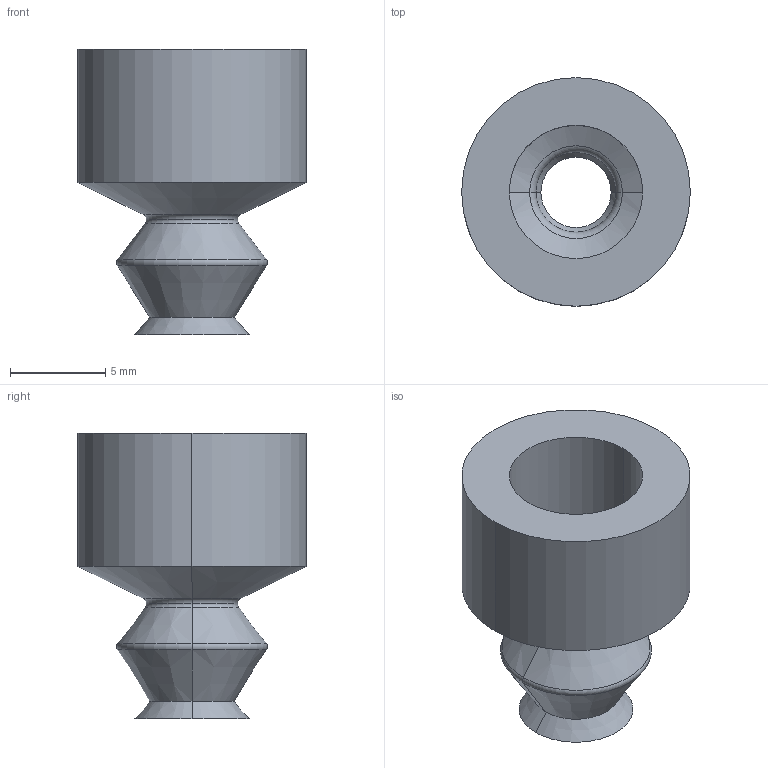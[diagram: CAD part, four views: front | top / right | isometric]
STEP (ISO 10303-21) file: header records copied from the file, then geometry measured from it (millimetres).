
FILE_DESCRIPTION (( 'STEP AP214' ), '1' );
FILE_NAME ('VSH2-S6.STEP', '2019-12-02T03:52:10', ( '微软用户' ), ( '微软中国' ), 'SwSTEP 2.0', 'SolidWorks 2016', '' );
FILE_SCHEMA (( 'AUTOMOTIVE_DESIGN' ));
Length unit declared in the file: millimetre
Products named in the file (1): VSH2-S6
Bounding box: 12 x 12 x 15 mm (x, y, z)
Volume: 465.5 mm3; surface area: 1059.8 mm2
Topology: 1 solids, 1 shells, 35 faces, 70 edges, 38 vertices
Faces by surface type: cone 16, torus 10, cylinder 6, plane 3
Entity records: 942 total; most frequent: DIRECTION 190, CARTESIAN_POINT 144, ORIENTED_EDGE 140, AXIS2_PLACEMENT_3D 84, EDGE_CURVE 70, CIRCLE 48, VERTEX_POINT 38, EDGE_LOOP 38
